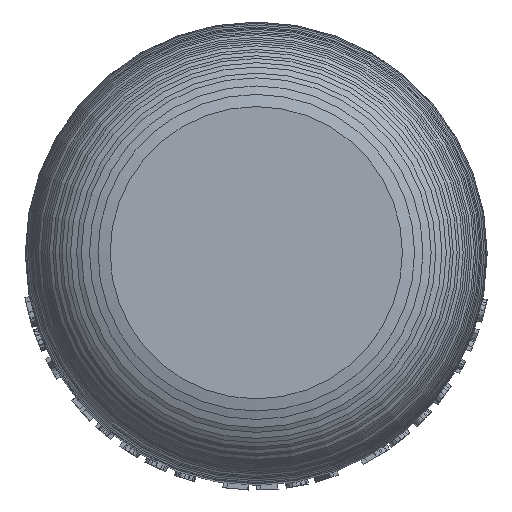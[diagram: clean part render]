
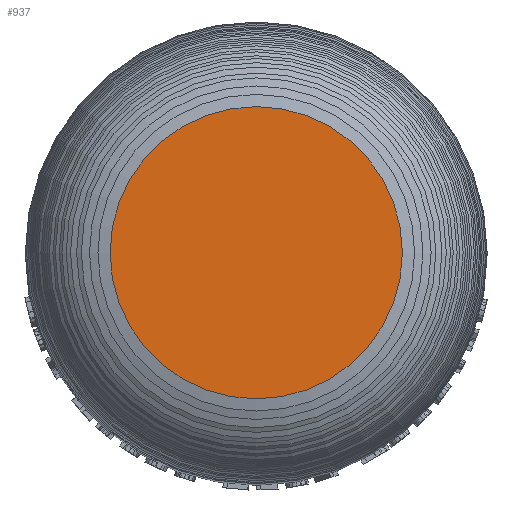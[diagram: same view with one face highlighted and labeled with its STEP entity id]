
A CAD part, top view. The second image highlights one B-rep face of the part: STEP entity #937.
In plain terms, the highlighted planar face has unit normal (0, 0, 1).
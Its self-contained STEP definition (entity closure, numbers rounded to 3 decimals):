
#918 = VERTEX_POINT('',#919);
#919 = CARTESIAN_POINT('',(11.389,0.,114.5));
#925 = EDGE_CURVE('',#918,#918,#926,.T.);
#926 = CIRCLE('',#927,11.389);
#927 = AXIS2_PLACEMENT_3D('',#928,#929,#930);
#928 = CARTESIAN_POINT('',(0.,0.,114.5));
#929 = DIRECTION('',(0.,0.,1.));
#930 = DIRECTION('',(1.,0.,-0.));
#937 = ADVANCED_FACE('',(#938),#941,.T.);
#938 = FACE_BOUND('',#939,.T.);
#939 = EDGE_LOOP('',(#940));
#940 = ORIENTED_EDGE('',*,*,#925,.T.);
#941 = PLANE('',#942);
#942 = AXIS2_PLACEMENT_3D('',#943,#944,#945);
#943 = CARTESIAN_POINT('',(0.,0.,114.5));
#944 = DIRECTION('',(0.,0.,1.));
#945 = DIRECTION('',(1.,0.,-0.));
